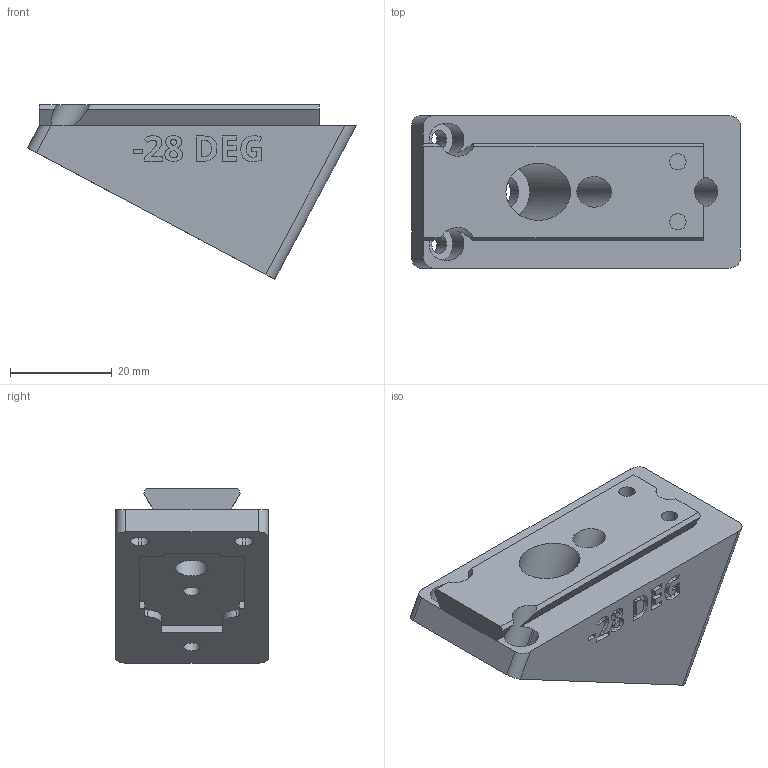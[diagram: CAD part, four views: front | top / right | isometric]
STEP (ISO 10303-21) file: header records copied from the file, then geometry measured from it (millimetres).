
FILE_DESCRIPTION(/* description */ ('STEP AP242 Edition 2','CAx-IF Rec.Pracs.---Representation and Presentation of Product Manufacturing Information (PMI)---4.0---2014-10-13','CAx-IF Rec.Pracs.---3D Tessellated Geometry---0.4---2014-09-14','2;1','CAx-IF Rec.Pracs.---User Defined Attributes---1.5---2016-08-15'),/* implementation_level */ '2;1');
FILE_NAME(/* name */ 'Camera Wedges - CAMERA MOUNTING WEDGE, NEG, -28 DEG',/* time_stamp */ '2026-07-08T20:36:12Z',/* author */ (''),/* organization */ (''),/* preprocessor_version */ 'ST-DEVELOPER v20',/* originating_system */ 'ONSHAPE BY PTC INC, 1.217',/* authorisation */ ' ');
FILE_SCHEMA (('AP242_MANAGED_MODEL_BASED_3D_ENGINEERING_MIM_LF { 1 0 10303 442 3 1 4 }'));
Length unit declared in the file: metre
Products named in the file (1): CAMERA MOUNTING WEDGE, NEG, -28 DEG
Bounding box: 64.62 x 30 x 34.3 mm (x, y, z)
Volume: 31813.7 mm3; surface area: 9651.7 mm2
Topology: 1 solids, 1 shells, 300 faces, 823 edges, 548 vertices
Faces by surface type: plane 142, bspline 94, cylinder 64
Full cylindrical faces by diameter (mm): 3.2 x4, 6 x2, 6.4 x1, 11.2 x1
Entity records: 9823 total; most frequent: CARTESIAN_POINT 2696, ORIENTED_EDGE 1628, DIRECTION 1183, EDGE_CURVE 814, VERTEX_POINT 547, LINE 483, VECTOR 483, AXIS2_PLACEMENT_3D 350
